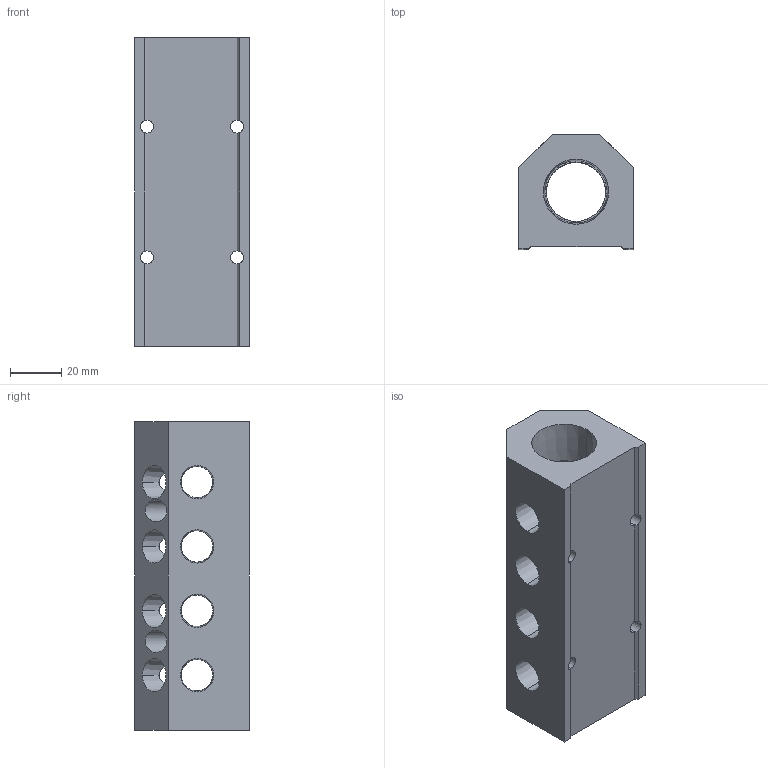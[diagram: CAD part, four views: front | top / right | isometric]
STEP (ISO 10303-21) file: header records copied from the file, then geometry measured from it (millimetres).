
FILE_DESCRIPTION (( 'STEP AP214' ), '1' );
FILE_NAME ('ALM4ABCDE-N4N12-120R.step', '2022-02-06T14:06:02', ( '' ), ( '' ), 'SwSTEP 2.0', 'SolidWorks 2020', '' );
FILE_SCHEMA (( 'AUTOMOTIVE_DESIGN' ));
Length unit declared in the file: millimetre
Products named in the file (1): ALM4ABCDE-N4N12-120R
Bounding box: 44.5 x 44.5 x 120 mm (x, y, z)
Volume: 129725.7 mm3; surface area: 37037.9 mm2
Topology: 1 solids, 1 shells, 390 faces, 1108 edges, 736 vertices
Faces by surface type: plane 250, bspline 55, cone 52, cylinder 33
Entity records: 21439 total; most frequent: CARTESIAN_POINT 8356, ORIENTED_EDGE 2216, DIRECTION 1596, EDGE_CURVE 1108, VERTEX_POINT 736, LINE 728, VECTOR 728, EDGE_LOOP 456
